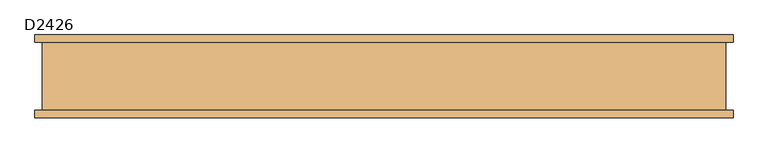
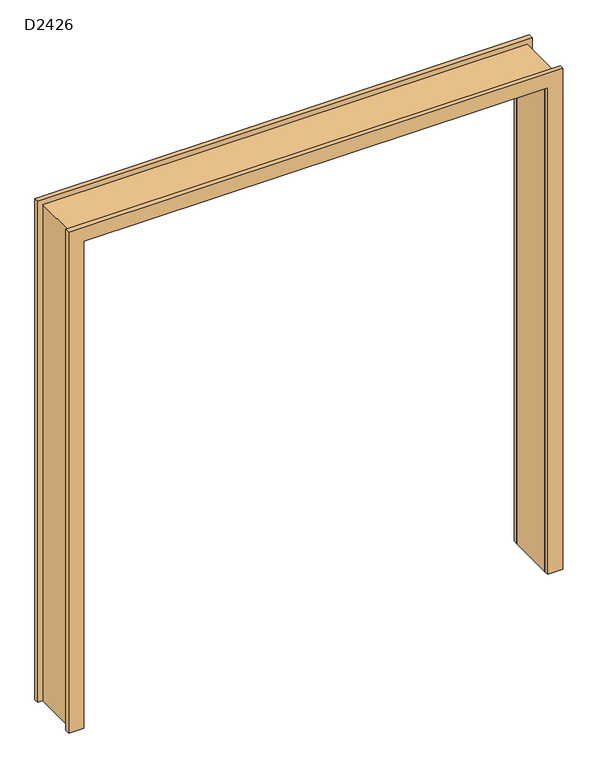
"""IFC4 building model written with IfcOpenShell, lengths in millimetres: door geometry, 门洞 : D2426."""

from ifc_helpers import new_model, si_unit, frame, origin, place, context, project, spatial, polyline, outline, extrude, source, transform, mapped, element, save


def d2426_82d8274d(model_context):
    return source(origin(), model_context, "Body", "SweptSolid", [
        extrude(outline(polyline([(2600.0, -1200.0), (0.0, -1200.0), (0.0, -1150.0), (2550.0, -1150.0), (2550.0, 1150.0), (0.0, 1150.0), (0.0, 1200.0), (2600.0, 1200.0), (2600.0, -1200.0)])), frame((0.0, -120.0, 0.0), z_axis=(0.0, 1.0, 0.0), x_axis=(0.0, 0.0, 1.0)), (0.0, 0.0, 1.0), 240.0),
        extrude(outline(polyline([(2625.0, -1225.0), (0.0, -1225.0), (0.0, -1150.0), (2550.0, -1150.0), (2550.0, 1150.0), (0.0, 1150.0), (0.0, 1225.0), (2625.0, 1225.0), (2625.0, -1225.0)])), frame((0.0, 120.0, 0.0), z_axis=(0.0, 1.0, 0.0), x_axis=(0.0, 0.0, 1.0)), (0.0, 0.0, 1.0), 25.0),
        extrude(outline(polyline([(2625.0, -1225.0), (0.0, -1225.0), (0.0, -1150.0), (2550.0, -1150.0), (2550.0, 1150.0), (0.0, 1150.0), (0.0, 1225.0), (2625.0, 1225.0), (2625.0, -1225.0)])), frame((0.0, -145.0, 0.0), z_axis=(0.0, 1.0, 0.0), x_axis=(0.0, 0.0, 1.0)), (0.0, 0.0, 1.0), 25.0),
    ])


if __name__ == "__main__":
    model = new_model("IFC4")
    model_context = context("Model", 3, world=origin())
    ifc_project = project(units=[si_unit("LENGTHUNIT", "METRE", prefix="MILLI")], contexts=[model_context])
    site = spatial("IfcSite", under=ifc_project)
    building = spatial("IfcBuilding", under=site)
    placement = place(None, origin())
    d2426_shape = d2426_82d8274d(model_context)
    element("IfcDoor", 1, ObjectType="门洞 : D2426", at=placement, inside=building, context=model_context, shape_type="MappedRepresentation", body=[
        mapped(d2426_shape, transform((0.0, 0.0, 0.0), x_axis=(1.0, 0.0, 0.0), y_axis=(0.0, 1.0, 0.0), z_axis=(0.0, 0.0, 1.0))),
    ])
    save(model, "model.ifc")
